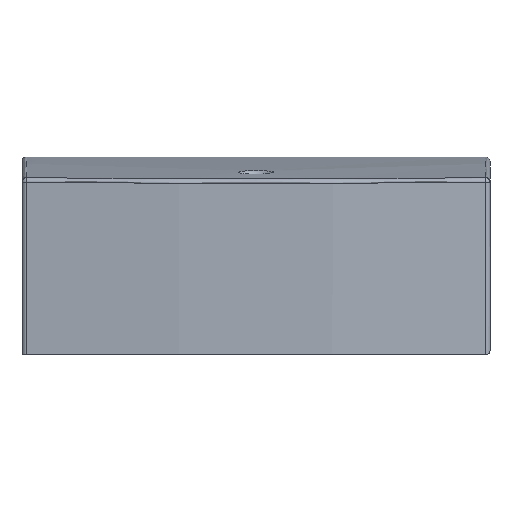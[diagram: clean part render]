
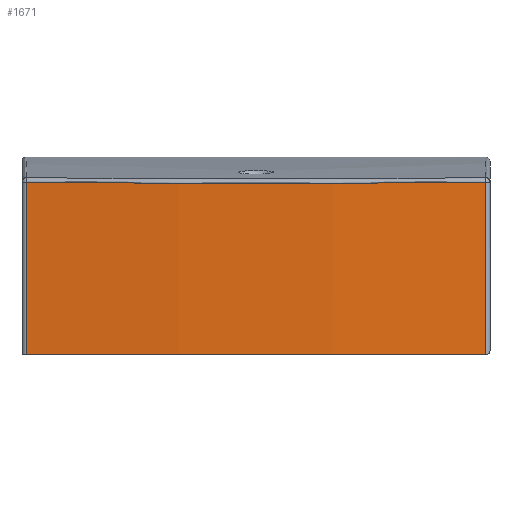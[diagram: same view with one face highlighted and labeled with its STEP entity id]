
A CAD part, front view. The second image highlights one B-rep face of the part: STEP entity #1671.
In plain terms, the highlighted free-form (B-spline) face has degree [2, 1] with [3, 2] control points.
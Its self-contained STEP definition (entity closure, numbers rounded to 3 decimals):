
#56 = CARTESIAN_POINT ( 'NONE',  ( -51.103, -70.094, 38.41 ) ) ;
#122 = CARTESIAN_POINT ( 'NONE',  ( -34.107, -71.641, 38.236 ) ) ;
#132 = CARTESIAN_POINT ( 'NONE',  ( -8.53, -72.75, 38.109 ) ) ;
#171 = VERTEX_POINT ( 'NONE', #603 ) ;
#189 = ORIENTED_EDGE ( 'NONE', *, *, #1890, .T. ) ;
#256 = CARTESIAN_POINT ( 'NONE',  ( 42.614, -70.976, 38.312 ) ) ;
#406 = CARTESIAN_POINT ( 'NONE',  ( -51.103, -70.094, 0. ) ) ;
#409 = CARTESIAN_POINT ( 'NONE',  ( -51.103, -70.094, 38.41 ) ) ;
#426 = B_SPLINE_SURFACE_WITH_KNOTS ( 'NONE', 2, 1, ( 
 ( #1208, #406 ),
 ( #1563, #586 ),
 ( #1903, #1092 ) ),
 .UNSPECIFIED., .F., .F., .F.,
 ( 3, 3 ),
 ( 2, 2 ),
 ( 0.009, 0.991 ),
 ( 0., 1. ),
 .UNSPECIFIED. ) ;
#429 = CARTESIAN_POINT ( 'NONE',  ( 17.067, -72.528, 38.135 ) ) ;
#437 = CARTESIAN_POINT ( 'NONE',  ( 51.103, -70.094, 38.41 ) ) ;
#524 = CARTESIAN_POINT ( 'NONE',  ( 51.035, -70.101, 0. ) ) ;
#538 = CARTESIAN_POINT ( 'NONE',  ( 51.069, -70.098, 0.002 ) ) ;
#551 = EDGE_CURVE ( 'NONE', #1933, #857, #2017, .T. ) ;
#578 = ORIENTED_EDGE ( 'NONE', *, *, #1130, .T. ) ;
#586 = CARTESIAN_POINT ( 'NONE',  ( 0., -75.406, 0. ) ) ;
#588 = CARTESIAN_POINT ( 'NONE',  ( -51.103, -70.094, 0. ) ) ;
#603 = CARTESIAN_POINT ( 'NONE',  ( 51., -70.105, 0. ) ) ;
#628 = CARTESIAN_POINT ( 'NONE',  ( 51.103, -70.094, 0. ) ) ;
#629 = EDGE_CURVE ( 'NONE', #1637, #171, #2088, .T. ) ;
#741 = CARTESIAN_POINT ( 'NONE',  ( 8.54, -72.75, 38.109 ) ) ;
#764 = CARTESIAN_POINT ( 'NONE',  ( -51.103, -70.094, 38.41 ) ) ;
#857 = VERTEX_POINT ( 'NONE', #409 ) ;
#938 = CARTESIAN_POINT ( 'NONE',  ( 51.103, -70.094, 0.005 ) ) ;
#1012 = DIRECTION ( 'NONE',  ( 0., 0., -1. ) ) ;
#1027 = ORIENTED_EDGE ( 'NONE', *, *, #629, .T. ) ;
#1092 = CARTESIAN_POINT ( 'NONE',  ( 51.103, -70.094, 0. ) ) ;
#1130 = EDGE_CURVE ( 'NONE', #2006, #1933, #1635, .T. ) ;
#1177 = CARTESIAN_POINT ( 'NONE',  ( 51.103, -70.094, 0.005 ) ) ;
#1193 = VECTOR ( 'NONE', #1012, 1000. ) ;
#1199 = LINE ( 'NONE', #56, #1193 ) ;
#1208 = CARTESIAN_POINT ( 'NONE',  ( -51.103, -70.094, 38.64 ) ) ;
#1297 = DIRECTION ( 'NONE',  ( 0., 0., 1. ) ) ;
#1337 = VECTOR ( 'NONE', #1297, 1000. ) ;
#1394 = CARTESIAN_POINT ( 'NONE',  ( 51.103, -70.094, 38.41 ) ) ;
#1409 = CARTESIAN_POINT ( 'NONE',  ( 51., -70.105, 0. ) ) ;
#1415 = B_SPLINE_CURVE_WITH_KNOTS ( 'NONE', 3,
 ( #1998, #524, #538, #1177 ),
 .UNSPECIFIED., .F., .F.,
 ( 4, 4 ),
 ( 0., 0. ),
 .UNSPECIFIED. ) ;
#1417 = CARTESIAN_POINT ( 'NONE',  ( -51.103, -70.094, 0. ) ) ;
#1421 = EDGE_CURVE ( 'NONE', #857, #1637, #1199, .T. ) ;
#1563 = CARTESIAN_POINT ( 'NONE',  ( 0., -75.406, 38.64 ) ) ;
#1572 = CARTESIAN_POINT ( 'NONE',  ( -0.052, -75.401, 0. ) ) ;
#1635 = LINE ( 'NONE', #628, #1337 ) ;
#1637 = VERTEX_POINT ( 'NONE', #1417 ) ;
#1660 = ORIENTED_EDGE ( 'NONE', *, *, #551, .T. ) ;
#1671 = ADVANCED_FACE ( 'NONE', ( #2037 ), #426, .F. ) ;
#1740 = CARTESIAN_POINT ( 'NONE',  ( 34.102, -71.641, 38.236 ) ) ;
#1766 = EDGE_LOOP ( 'NONE', ( #1660, #1949, #1027, #189, #578 ) ) ;
#1890 = EDGE_CURVE ( 'NONE', #171, #2006, #1415, .T. ) ;
#1903 = CARTESIAN_POINT ( 'NONE',  ( 51.103, -70.094, 38.64 ) ) ;
#1904 = CARTESIAN_POINT ( 'NONE',  ( -17.06, -72.528, 38.135 ) ) ;
#1933 = VERTEX_POINT ( 'NONE', #1394 ) ;
#1949 = ORIENTED_EDGE ( 'NONE', *, *, #1421, .T. ) ;
#1998 = CARTESIAN_POINT ( 'NONE',  ( 51., -70.105, 0. ) ) ;
#2006 = VERTEX_POINT ( 'NONE', #938 ) ;
#2017 = B_SPLINE_CURVE_WITH_KNOTS ( 'NONE', 3,
 ( #437, #256, #1740, #429, #741, #132, #1904, #122, #2038, #764 ),
 .UNSPECIFIED., .F., .F.,
 ( 4, 2, 2, 2, 4 ),
 ( 0.001, 0.027, 0.052, 0.078, 0.103 ),
 .UNSPECIFIED. ) ;
#2037 = FACE_OUTER_BOUND ( 'NONE', #1766, .T. ) ;
#2038 = CARTESIAN_POINT ( 'NONE',  ( -42.615, -70.976, 38.312 ) ) ;
#2088 = B_SPLINE_CURVE_WITH_KNOTS ( 'NONE', 2,
 ( #588, #1572, #1409 ),
 .UNSPECIFIED., .F., .F.,
 ( 3, 3 ),
 ( 0.009, 0.99 ),
 .UNSPECIFIED. ) ;
